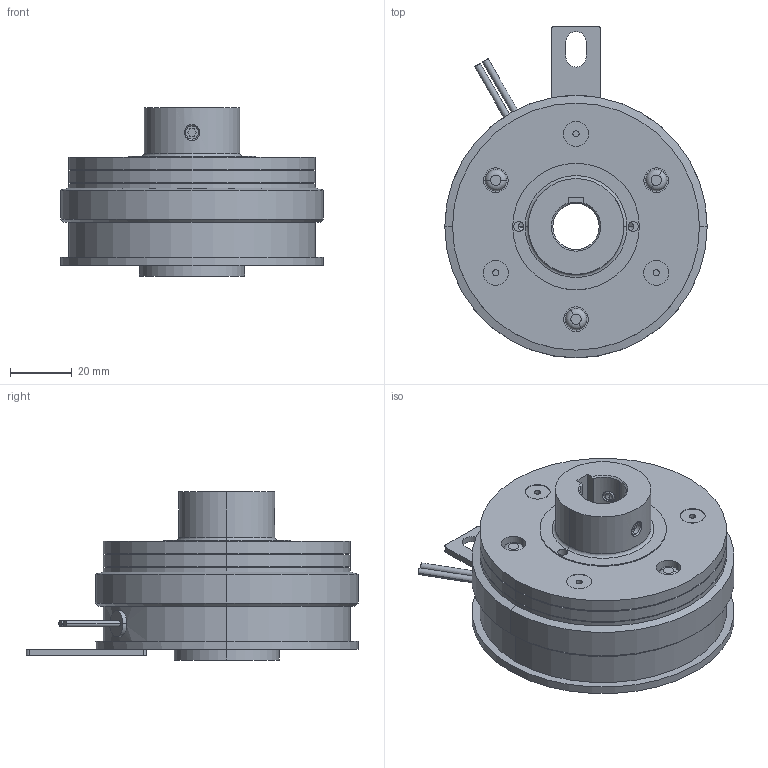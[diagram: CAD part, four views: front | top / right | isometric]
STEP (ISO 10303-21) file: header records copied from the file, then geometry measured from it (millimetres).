
FILE_DESCRIPTION (( 'STEP AP214' ), '1' );
FILE_NAME ('CS-08-31G R15DIN A15DIN.STEP', '2018-02-22T07:07:30', ( 'MIKI' ), ( '' ), 'SwSTEP 2.0', 'SolidWorks 2012', '' );
FILE_SCHEMA (( 'AUTOMOTIVE_DESIGN' ));
Length unit declared in the file: millimetre
Products named in the file (1): CS-08-31G R15DIN A15DIN
Bounding box: 85 x 107.5 x 54.5 mm (x, y, z)
Volume: 181518.6 mm3; surface area: 39086.6 mm2
Topology: 1 solids, 5 shells, 243 faces, 530 edges, 330 vertices
Faces by surface type: cylinder 114, plane 75, cone 40, torus 14
Entity records: 9645 total; most frequent: CARTESIAN_POINT 1436, DIRECTION 1262, ORIENTED_EDGE 1036, AXIS2_PLACEMENT_3D 518, EDGE_CURVE 518, VERTEX_POINT 330, EDGE_LOOP 298, CIRCLE 274
